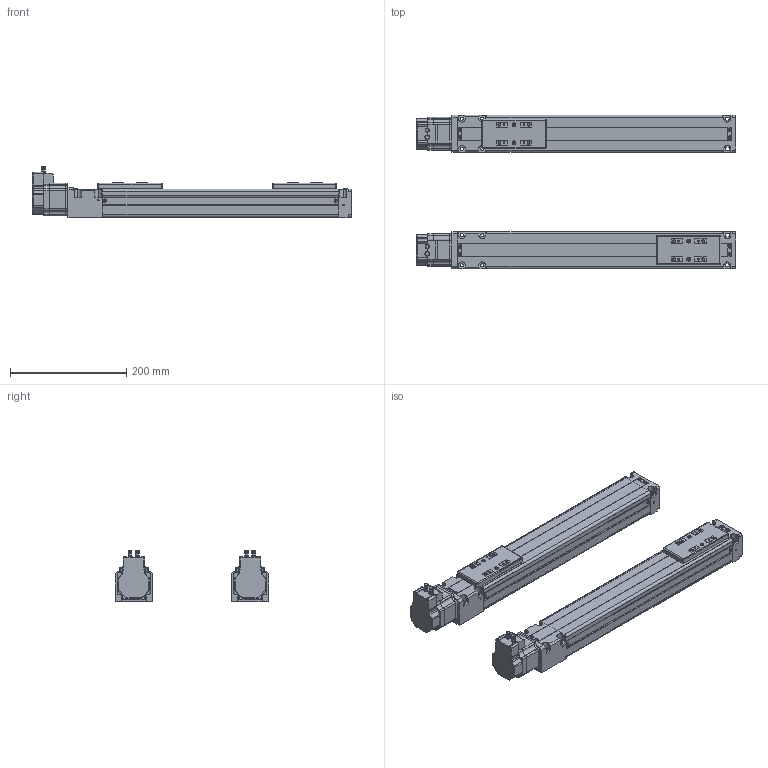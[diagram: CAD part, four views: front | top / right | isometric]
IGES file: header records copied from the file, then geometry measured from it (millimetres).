
Start section: IMSI TurboCAD v14.0
Global section: author: NULL; organization: NULL; date: 20151219.124448; units: millimetre
Bounding box: 548 x 264 x 87.99 mm (x, y, z)
Surface area: 602391.4 mm2 (no closed solid volume)
Topology: 0 solids, 0 shells, 2606 faces, 14402 edges, 14374 vertices
Faces by surface type: extrusion 1948, revolution 588, bspline 70
